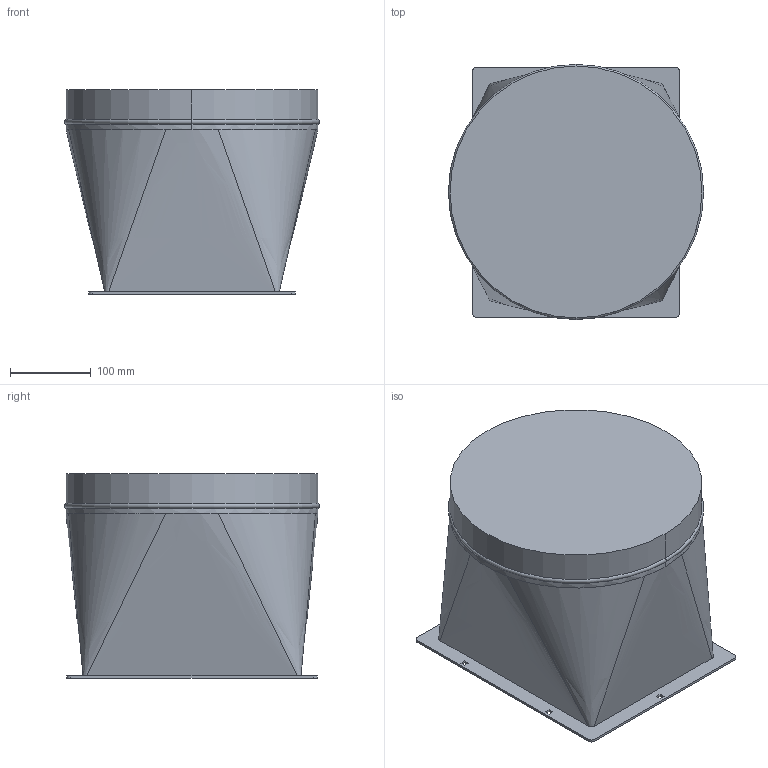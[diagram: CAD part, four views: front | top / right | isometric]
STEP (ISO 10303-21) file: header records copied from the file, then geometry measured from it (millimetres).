
FILE_DESCRIPTION((''),'2;1');
FILE_NAME('FBO_220','2023-01-24T15:25:19',('Tomas Bellgran'),(''),'CREO PARAMETRIC BY PTC INC, 2018260','CREO PARAMETRIC BY PTC INC, 2018260','');
FILE_SCHEMA(('AUTOMOTIVE_DESIGN { 1 0 10303 214 1 1 1 1 }'));
Length unit declared in the file: millimetre
Products named in the file (1): FBO_220
Bounding box: 317 x 317 x 254.3 mm (x, y, z)
Volume: 18270048.7 mm3; surface area: 430449.8 mm2
Topology: 1 solids, 1 shells, 49 faces, 148 edges, 102 vertices
Faces by surface type: plane 31, bspline 8, cylinder 8, torus 2
Entity records: 2784 total; most frequent: CARTESIAN_POINT 1252, ORIENTED_EDGE 296, DIRECTION 267, EDGE_CURVE 148, VECTOR 104, LINE 104, VERTEX_POINT 102, AXIS2_PLACEMENT_3D 80
